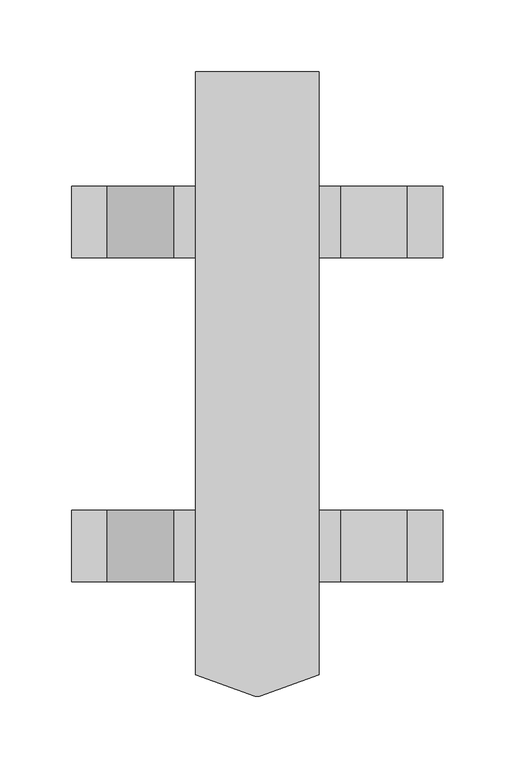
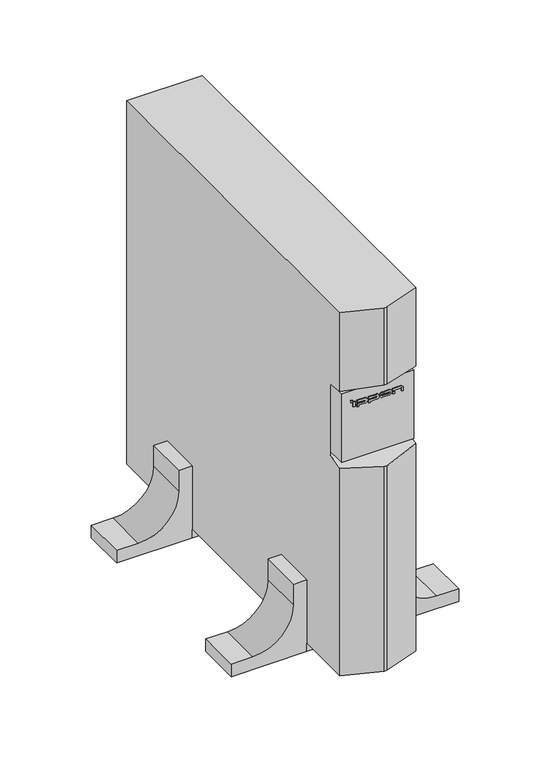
"""IFC4 building model written with IfcOpenShell, lengths in millimetres: proxy geometry, IPPON_EBM_Innova RT_1000_1500-2000_3000ВА : БМ Innova RT 1500/2000 ВА."""

from ifc_helpers import new_model, si_unit, point, frame, frame_2d, origin, origin_with_axes, place, context, project, spatial, polyline, circle_curve, trimmed, segment, composite_curve, outline, extrude, faceted_brep, source, transform, mapped, element, save


def electrical_equipment_1a3260f8(model_context):
    return source(origin(), model_context, "Body", "SolidModel", [
        extrude(outline(polyline([(-29.1718133, 14.0), (-31.1718133, 14.0), (-31.1718133, 15.0), (-29.1718133, 15.0), (-29.1718133, 14.0)])), frame((0.0, 0.0, 335.7195835), z_axis=(0.0, 0.0, 1.0), x_axis=(1.0, 0.0, 0.0)), (0.0, 0.0, 1.0), 2.3),
        extrude(outline(polyline([(18.6035474, 14.0), (16.6035474, 14.0), (16.6035474, 15.0), (18.6035474, 15.0), (18.6035474, 14.0)])), frame((0.0, 0.0, 329.7195835), z_axis=(0.0, 0.0, 1.0), x_axis=(1.0, 0.0, 0.0)), (0.0, 0.0, 1.0), 2.2268231),
        extrude(outline(polyline([(-26.438565, 14.0), (-28.4833324, 14.0), (-28.4833324, 15.0), (-26.438565, 15.0), (-26.438565, 14.0)])), frame((0.0, 0.0, 329.7195835), z_axis=(0.0, 0.0, 1.0), x_axis=(1.0, 0.0, 0.0)), (0.0, 0.0, 1.0), 6.0),
        extrude(outline(composite_curve([segment(polyline([(333.4571435, -24.2241109), (333.4571435, -14.9923536)]), True, "CONTINUOUS"), segment(trimmed(circle_curve(frame_2d((332.6006642, -14.9923536)), 0.8564793), [point((333.4571435, -14.9923536))], [point((331.7441849, -14.9923536))], True, "CARTESIAN"), True, "CONTINUOUS"), segment(polyline([(331.7441849, -14.9923536), (331.7441849, -24.2241109), (328.2536803, -24.2241109), (328.2536803, -22.2241109), (329.7195835, -22.2241109), (329.7195835, -15.1486036)]), True, "CONTINUOUS"), segment(trimmed(circle_curve(frame_2d((332.7195835, -15.1486036)), 3.0), [point((329.7195835, -15.1486036))], [point((335.7195835, -15.1486036))], False, "CARTESIAN"), True, "CONTINUOUS"), segment(polyline([(335.7195835, -15.1486036), (335.7195835, -24.2241109), (333.4571435, -24.2241109)]), True, "CONTINUOUS")], self_intersect=False)), frame((0.0, 14.0, 0.0), z_axis=(0.0, 1.0, 0.0), x_axis=(0.0, 0.0, 1.0)), (0.0, 0.0, 1.0), 1.0),
        extrude(outline(composite_curve([segment(polyline([(333.4571435, -11.0171091), (333.4571435, -1.7853518)]), True, "CONTINUOUS"), segment(trimmed(circle_curve(frame_2d((332.6006642, -1.7853518)), 0.8564793), [point((333.4571435, -1.7853518))], [point((331.7441849, -1.7853518))], True, "CARTESIAN"), True, "CONTINUOUS"), segment(polyline([(331.7441849, -1.7853518), (331.7441849, -11.0171091), (328.2536803, -11.0171091), (328.2536803, -9.0171091), (329.7195835, -9.0171091), (329.7195835, -1.9416018)]), True, "CONTINUOUS"), segment(trimmed(circle_curve(frame_2d((332.7195835, -1.9416018)), 3.0), [point((329.7195835, -1.9416018))], [point((335.7195835, -1.9416018))], False, "CARTESIAN"), True, "CONTINUOUS"), segment(polyline([(335.7195835, -1.9416018), (335.7195835, -11.0171091), (333.4571435, -11.0171091)]), True, "CONTINUOUS")], self_intersect=False)), frame((0.0, 14.0, 0.0), z_axis=(0.0, 1.0, 0.0), x_axis=(0.0, 0.0, 1.0)), (0.0, 0.0, 1.0), 1.0),
        extrude(outline(composite_curve([segment(trimmed(circle_curve(frame_2d((332.7195835, 12.558657)), 3.0), [point((329.7195835, 12.558657))], [point((335.7195835, 12.558657))], False, "CARTESIAN"), True, "CONTINUOUS"), segment(polyline([(335.7195835, 12.558657), (335.7195835, 4.958657)]), True, "CONTINUOUS"), segment(trimmed(circle_curve(frame_2d((332.7195835, 4.958657)), 3.0), [point((335.7195835, 4.958657))], [point((329.7195835, 4.958657))], False, "CARTESIAN"), True, "CONTINUOUS"), segment(polyline([(329.7195835, 4.958657), (329.7195835, 12.558657)]), True, "CONTINUOUS")], self_intersect=False), holes=[composite_curve([segment(polyline([(331.7441849, 12.714907), (331.7441849, 4.802407)]), True, "CONTINUOUS"), segment(trimmed(circle_curve(frame_2d((332.6006642, 4.802407)), 0.8564793), [point((331.7441849, 4.802407))], [point((333.4571435, 4.802407))], True, "CARTESIAN"), True, "CONTINUOUS"), segment(polyline([(333.4571435, 4.802407), (333.4571435, 12.714907)]), True, "CONTINUOUS"), segment(trimmed(circle_curve(frame_2d((332.6006642, 12.714907)), 0.8564793), [point((333.4571435, 12.714907))], [point((331.7441849, 12.714907))], True, "CARTESIAN"), True, "CONTINUOUS")], self_intersect=False)]), frame((0.0, 14.0, 0.0), z_axis=(0.0, 1.0, 0.0), x_axis=(0.0, 0.0, 1.0)), (0.0, 0.0, 1.0), 1.0),
        extrude(outline(composite_curve([segment(polyline([(333.4571435, 16.6035474), (333.4571435, 25.8353046)]), True, "CONTINUOUS"), segment(trimmed(circle_curve(frame_2d((332.6006642, 25.8353046)), 0.8564793), [point((333.4571435, 25.8353046))], [point((332.6006642, 26.6917839))], True, "CARTESIAN"), True, "CONTINUOUS"), segment(polyline([(332.6006642, 26.6917839), (329.7195835, 26.6917839), (329.7195835, 28.6317921), (333.25, 28.6317921)]), True, "CONTINUOUS"), segment(trimmed(circle_curve(frame_2d((332.7195835, 25.6790546)), 3.0), [point((333.25, 28.6317921))], [point((335.7195835, 25.6790546))], False, "CARTESIAN"), True, "CONTINUOUS"), segment(polyline([(335.7195835, 25.6790546), (335.7195835, 16.6035474), (333.4571435, 16.6035474)]), True, "CONTINUOUS")], self_intersect=False)), frame((0.0, 14.0, 0.0), z_axis=(0.0, 1.0, 0.0), x_axis=(0.0, 0.0, 1.0)), (0.0, 0.0, 1.0), 1.0),
        extrude(outline(polyline([(-43.25, 356.0), (43.25, 356.0), (43.25, 306.0), (-43.25, 306.0), (-43.25, 356.0)])), origin_with_axes(), (0.0, 0.0, 1.0), 10.0),
        extrude(outline(polyline([(43.25, 80.0), (-43.25, 80.0), (-43.25, 130.0), (43.25, 130.0), (43.25, 80.0)])), origin_with_axes(), (0.0, 0.0, 1.0), 10.0),
        extrude(outline(composite_curve([segment(polyline([(0.0, -43.25), (86.5, -43.25), (86.5, -58.25), (61.5, -58.25)]), True, "CONTINUOUS"), segment(trimmed(circle_curve(frame_2d((61.5, -104.75)), 46.5), [point((61.5, -58.25))], [point((15.0, -104.75))], True, "CARTESIAN"), True, "CONTINUOUS"), segment(polyline([(15.0, -104.75), (15.0, -129.75), (0.0, -129.75), (0.0, -43.25)]), True, "CONTINUOUS")], self_intersect=False)), frame((0.0, 306.0, 0.0), z_axis=(0.0, 1.0, 0.0), x_axis=(0.0, 0.0, 1.0)), (0.0, 0.0, 1.0), 50.0),
        extrude(outline(composite_curve([segment(polyline([(0.0, -43.25), (86.5, -43.25), (86.5, -58.25), (61.5, -58.25)]), True, "CONTINUOUS"), segment(trimmed(circle_curve(frame_2d((61.5, -104.75)), 46.5), [point((61.5, -58.25))], [point((15.0, -104.75))], True, "CARTESIAN"), True, "CONTINUOUS"), segment(polyline([(15.0, -104.75), (15.0, -129.75), (0.0, -129.75), (0.0, -43.25)]), True, "CONTINUOUS")], self_intersect=False)), frame((0.0, 80.0, 0.0), z_axis=(0.0, 1.0, 0.0), x_axis=(0.0, 0.0, 1.0)), (0.0, 0.0, 1.0), 50.0),
        extrude(outline(composite_curve([segment(polyline([(0.0, 129.75), (15.0, 129.75), (15.0, 104.75)]), True, "CONTINUOUS"), segment(trimmed(circle_curve(frame_2d((61.5, 104.75)), 46.5), [point((15.0, 104.75))], [point((61.5, 58.25))], True, "CARTESIAN"), True, "CONTINUOUS"), segment(polyline([(61.5, 58.25), (86.5, 58.25), (86.5, 43.25), (0.0, 43.25), (0.0, 129.75)]), True, "CONTINUOUS")], self_intersect=False)), frame((0.0, 306.0, 0.0), z_axis=(0.0, 1.0, 0.0), x_axis=(0.0, 0.0, 1.0)), (0.0, 0.0, 1.0), 50.0),
        extrude(outline(composite_curve([segment(polyline([(0.0, 43.25), (0.0, 129.75), (15.0, 129.75), (15.0, 104.75)]), True, "CONTINUOUS"), segment(trimmed(circle_curve(frame_2d((61.5, 104.75)), 46.5), [point((15.0, 104.75))], [point((61.5, 58.25))], True, "CARTESIAN"), True, "CONTINUOUS"), segment(polyline([(61.5, 58.25), (86.5, 58.25), (86.5, 43.25), (0.0, 43.25)]), True, "CONTINUOUS")], self_intersect=False)), frame((0.0, 80.0, 0.0), z_axis=(0.0, 1.0, 0.0), x_axis=(0.0, 0.0, 1.0)), (0.0, 0.0, 1.0), 50.0),
        extrude(outline(polyline([(41.25, 15.0), (-41.25, 15.0), (-41.25, 43.0), (41.25, 43.0), (41.25, 15.0)])), frame((0.0, 0.0, 266.75), z_axis=(0.0, 0.0, 1.0), x_axis=(1.0, 0.0, 0.0)), (0.0, 0.0, 1.0), 82.5),
        faceted_brep([(1.5, 0.0, 448.0), (-1.5, 0.0, 448.0), (-1.5, 0.0, 355.25), (1.5, 0.0, 355.25), (-1.5, 0.0, 10.0), (1.5, 0.0, 10.0), (1.5, 0.0, 256.75), (-1.5, 0.0, 256.75), (43.25, 15.0, 448.0), (43.25, 15.0, 353.1569767), (43.25, 15.0, 10.0), (43.25, 15.0, 260.2383721), (43.25, 436.0, 448.0), (-43.25, 436.0, 448.0), (-43.25, 15.0, 448.0), (-43.25, 15.0, 353.1569767), (-43.25, 15.0, 10.0), (-43.25, 15.0, 260.2383721), (-43.25, 436.0, 10.0), (43.25, 436.0, 10.0), (41.25, 43.0, 349.25), (-41.25, 43.0, 349.25), (-41.25, 43.0, 266.75), (41.25, 43.0, 266.75), (43.25, 34.4, 264.75), (43.25, 34.4, 350.45), (-43.25, 34.4, 264.75), (-43.25, 34.4, 350.45)], [[[0, 1, 2, 3]], [[4, 5, 6, 7]], [[8, 0, 3, 9]], [[5, 10, 11, 6]], [[1, 0, 8, 12, 13, 14]], [[1, 14, 15, 2]], [[16, 4, 7, 17]], [[5, 4, 16, 18, 19, 10]], [[20, 21, 22, 23]], [[20, 23, 24, 25]], [[23, 22, 26, 17, 7, 6, 11, 24]], [[22, 21, 27, 26]], [[21, 20, 25, 9, 3, 2, 15, 27]], [[12, 19, 18, 13]], [[13, 18, 16, 17, 26, 27, 15, 14]], [[19, 12, 8, 9, 25, 24, 11, 10]]]),
    ])


if __name__ == "__main__":
    model = new_model("IFC4")
    model_context = context("Model", 3, world=origin())
    ifc_project = project(units=[si_unit("LENGTHUNIT", "METRE", prefix="MILLI")], contexts=[model_context])
    site = spatial("IfcSite", under=ifc_project)
    building = spatial("IfcBuilding", under=site)
    placement = place(None, origin())
    electrical_equipment_shape = electrical_equipment_1a3260f8(model_context)
    element("IfcBuildingElementProxy", 1, Name="IPPON_EBM_Innova RT_1000_1500-2000_3000ВА : БМ Innova RT 1500/2000 ВА", ObjectType="IPPON_EBM_Innova RT_1000_1500-2000_3000ВА : БМ Innova RT 1500/2000 ВА", at=placement, inside=building, context=model_context, shape_type="MappedRepresentation", body=[
        mapped(electrical_equipment_shape, transform((0.0, 0.0, 0.0), x_axis=(1.0, 0.0, 0.0), y_axis=(0.0, 1.0, 0.0), z_axis=(0.0, 0.0, 1.0))),
    ])
    save(model, "model.ifc")
